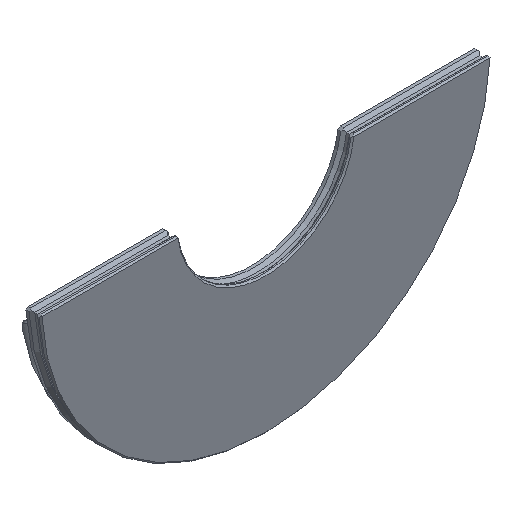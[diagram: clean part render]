
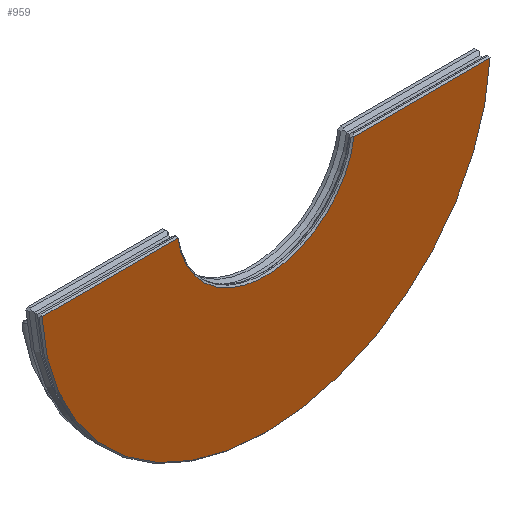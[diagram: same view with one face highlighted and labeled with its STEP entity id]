
A CAD part, isometric view. The second image highlights one B-rep face of the part: STEP entity #959.
In plain terms, the highlighted planar face has unit normal (0, -1, 0).
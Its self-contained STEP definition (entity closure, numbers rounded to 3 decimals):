
#60=CIRCLE('',#1014,30.625);
#66=CIRCLE('',#1037,77.25);
#151=FACE_OUTER_BOUND('',#207,.T.);
#207=EDGE_LOOP('',(#841,#842,#843,#844));
#267=LINE('',#1711,#347);
#291=LINE('',#1816,#371);
#347=VECTOR('',#1170,10.);
#371=VECTOR('',#1226,10.);
#432=VERTEX_POINT('',#1686);
#433=VERTEX_POINT('',#1691);
#437=VERTEX_POINT('',#1706);
#463=VERTEX_POINT('',#1815);
#545=EDGE_CURVE('',#432,#433,#60,.T.);
#551=EDGE_CURVE('',#437,#432,#267,.T.);
#591=EDGE_CURVE('',#433,#463,#291,.T.);
#597=EDGE_CURVE('',#463,#437,#66,.T.);
#841=ORIENTED_EDGE('',*,*,#591,.F.);
#842=ORIENTED_EDGE('',*,*,#545,.F.);
#843=ORIENTED_EDGE('',*,*,#551,.F.);
#844=ORIENTED_EDGE('',*,*,#597,.F.);
#910=PLANE('',#1038);
#959=ADVANCED_FACE('',(#151),#910,.T.);
#1014=AXIS2_PLACEMENT_3D('',#1692,#1164,#1165);
#1037=AXIS2_PLACEMENT_3D('',#1831,#1238,#1239);
#1038=AXIS2_PLACEMENT_3D('',#1832,#1240,#1241);
#1164=DIRECTION('center_axis',(0.,-1.,0.));
#1165=DIRECTION('ref_axis',(1.,0.,0.));
#1170=DIRECTION('',(1.,0.,0.));
#1226=DIRECTION('',(1.,0.,0.));
#1238=DIRECTION('center_axis',(0.,1.,0.));
#1239=DIRECTION('ref_axis',(1.,0.,0.));
#1240=DIRECTION('center_axis',(0.,-1.,0.));
#1241=DIRECTION('ref_axis',(1.,0.,0.));
#1686=CARTESIAN_POINT('',(-30.329,-2.5,-4.25));
#1691=CARTESIAN_POINT('',(30.329,-2.5,-4.25));
#1692=CARTESIAN_POINT('Origin',(0.,-2.5,0.));
#1706=CARTESIAN_POINT('',(-77.133,-2.5,-4.25));
#1711=CARTESIAN_POINT('',(-14.945,-2.5,-4.25));
#1815=CARTESIAN_POINT('',(77.133,-2.5,-4.25));
#1816=CARTESIAN_POINT('',(38.83,-2.5,-4.25));
#1831=CARTESIAN_POINT('Origin',(0.,-2.5,0.));
#1832=CARTESIAN_POINT('Origin',(0.,-2.5,-40.75));
